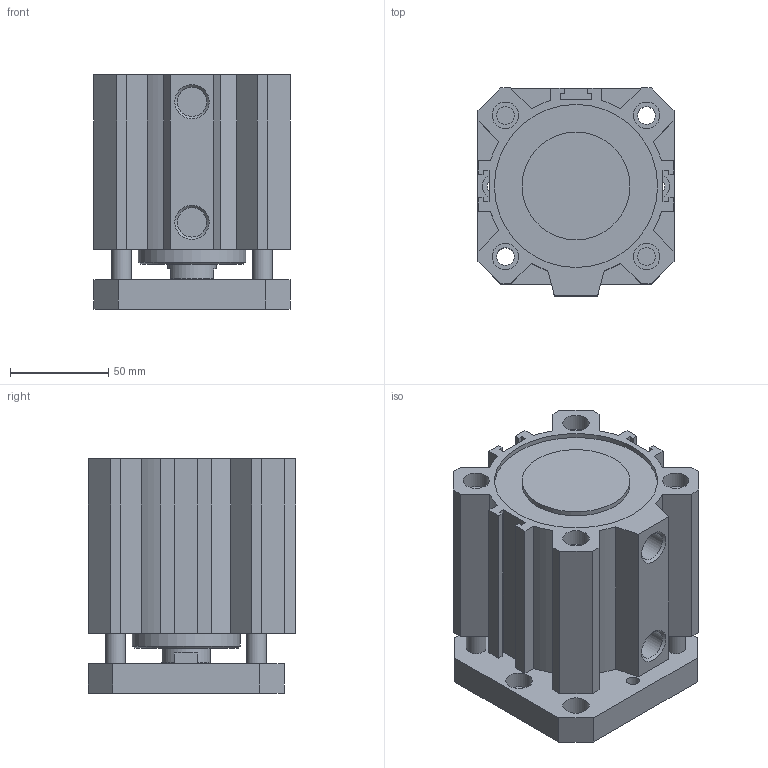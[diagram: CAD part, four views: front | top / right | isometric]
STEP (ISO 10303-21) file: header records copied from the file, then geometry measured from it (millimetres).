
FILE_DESCRIPTION(/* description */ (''),/* implementation_level */ '2;1');
FILE_NAME(/* name */ 'I:\Area Tecnica\Disegni\VARIE-3D\Componenti\1500\Ø80\15##_80_####_#\1501_80_0045_AR.stp',/* time_stamp */ '2016-08-24T14:12:35+02:00',/* author */ ('Maniean1'),/* organization */ ('Pneumax S.p.A.'),/* preprocessor_version */ 'ST-DEVELOPER v15.2',/* originating_system */ 'Autodesk Inventor 2014',/* authorisation */ '');
FILE_SCHEMA (('AUTOMOTIVE_DESIGN { 1 0 10303 214 3 1 1 }'));
Length unit declared in the file: millimetre
Products named in the file (3): C_1501_80_0045_AR; S_1501_80_0045_AR; 1501_80_0045_AR
Bounding box: 100 x 106 x 119.5 mm (x, y, z)
Volume: 679076 mm3; surface area: 157533.3 mm2
Topology: 2 solids, 2 shells, 139 faces, 341 edges, 228 vertices
Faces by surface type: plane 94, cylinder 40, cone 5
Full cylindrical faces by diameter (mm): 6.647 x2, 8.5 x2, 9 x4, 10 x4, 13.5 x10, 14.95 x2, 25 x2, 55 x2, 80 x2, 83.2 x2
Entity records: 4083 total; most frequent: CARTESIAN_POINT 674, DIRECTION 672, ORIENTED_EDGE 600, EDGE_CURVE 300, AXIS2_PLACEMENT_3D 232, VERTEX_POINT 222, EDGE_LOOP 216, LINE 208
